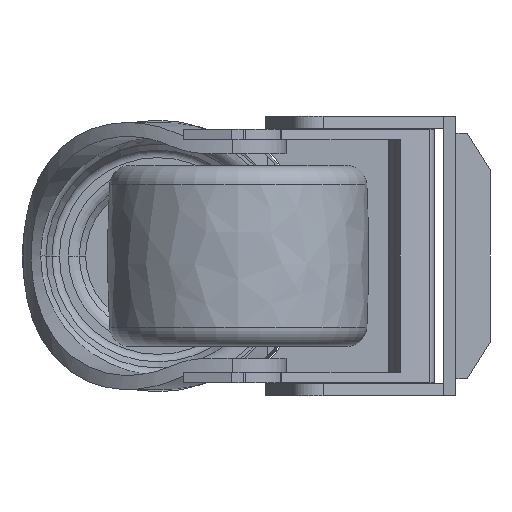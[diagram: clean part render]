
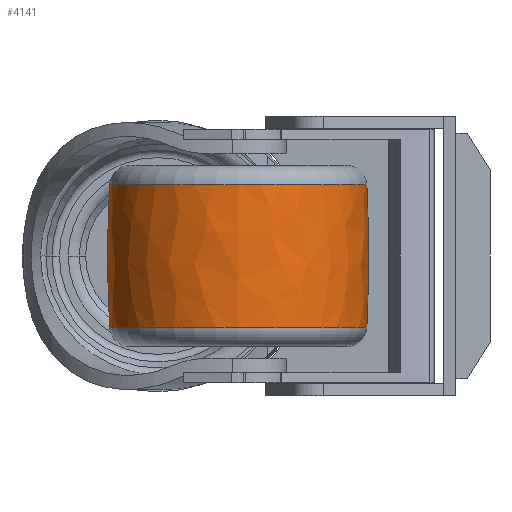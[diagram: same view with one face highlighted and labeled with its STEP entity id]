
A CAD part, front view. The second image highlights one B-rep face of the part: STEP entity #4141.
In plain terms, the highlighted free-form (B-spline) face has degree [3, 3] with [7, 4] control points.
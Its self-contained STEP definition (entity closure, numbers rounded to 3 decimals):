
#3947=CARTESIAN_POINT('',(0.,-305.375,
0.));
#3948=DIRECTION('',(0.,0.,1.));
#3949=DIRECTION('',(0.053,0.999,0.));
#3950=AXIS2_PLACEMENT_3D('',#3947,#3948,#3949);
#3952=CARTESIAN_POINT('',(0.,305.375,
0.));
#3953=DIRECTION('',(0.,0.,-1.));
#3954=DIRECTION('',(0.053,-0.999,0.));
#3955=AXIS2_PLACEMENT_3D('',#3952,#3953,#3954);
#3957=CARTESIAN_POINT('',(17.763,0.,0.));
#3958=DIRECTION('',(-1.,0.,0.));
#3959=DIRECTION('',(0.,1.,0.));
#3960=AXIS2_PLACEMENT_3D('',#3957,#3958,#3959);
#3972=CARTESIAN_POINT('',(-17.763,0.,0.));
#3973=DIRECTION('',(-1.,0.,0.));
#3974=DIRECTION('',(0.,1.,0.));
#3975=AXIS2_PLACEMENT_3D('',#3972,#3973,#3974);
#4040=CARTESIAN_POINT('',(17.763,32.033,0.));
#4041=CARTESIAN_POINT('',(-17.763,32.033,0.));
#4042=VERTEX_POINT('',#4040);
#4043=VERTEX_POINT('',#4041);
#4052=CARTESIAN_POINT('',(17.763,-32.033,0.));
#4053=CARTESIAN_POINT('',(-17.763,-32.033,0.));
#4054=VERTEX_POINT('',#4052);
#4055=VERTEX_POINT('',#4053);
#4104=CARTESIAN_POINT('',(-18.473,-31.932,
2.009));
#4105=CARTESIAN_POINT('',(-6.164,-32.604,
2.051));
#4106=CARTESIAN_POINT('',(6.164,-32.604,2.051));
#4107=CARTESIAN_POINT('',(18.473,-31.932,2.009));
#4108=CARTESIAN_POINT('',(-18.473,-33.168,
-17.642));
#4109=CARTESIAN_POINT('',(-6.164,-33.867,
-18.013));
#4110=CARTESIAN_POINT('',(6.164,-33.867,
-18.013));
#4111=CARTESIAN_POINT('',(18.473,-33.168,
-17.642));
#4112=CARTESIAN_POINT('',(-18.473,-19.689,
-31.995));
#4113=CARTESIAN_POINT('',(-6.164,-20.104,
-32.669));
#4114=CARTESIAN_POINT('',(6.164,-20.104,
-32.669));
#4115=CARTESIAN_POINT('',(18.473,-19.689,
-31.995));
#4116=CARTESIAN_POINT('',(-18.473,0.,-31.995));
#4117=CARTESIAN_POINT('',(-6.164,0.,-32.669));
#4118=CARTESIAN_POINT('',(6.164,0.,-32.669));
#4119=CARTESIAN_POINT('',(18.473,0.,-31.995));
#4120=CARTESIAN_POINT('',(-18.473,19.689,
-31.995));
#4121=CARTESIAN_POINT('',(-6.164,20.104,
-32.669));
#4122=CARTESIAN_POINT('',(6.164,20.104,-32.669));
#4123=CARTESIAN_POINT('',(18.473,19.689,-31.995));
#4124=CARTESIAN_POINT('',(-18.473,33.168,
-17.642));
#4125=CARTESIAN_POINT('',(-6.164,33.867,
-18.013));
#4126=CARTESIAN_POINT('',(6.164,33.867,-18.013));
#4127=CARTESIAN_POINT('',(18.473,33.168,-17.642));
#4128=CARTESIAN_POINT('',(-18.473,31.932,2.009));
#4129=CARTESIAN_POINT('',(-6.164,32.604,2.051));
#4130=CARTESIAN_POINT('',(6.164,32.604,2.051));
#4131=CARTESIAN_POINT('',(18.473,31.932,2.009));
#4132=(BOUNDED_SURFACE()B_SPLINE_SURFACE(3,3,((#4104,#4105,#4106,#4107),(#4108,
#4109,#4110,#4111),(#4112,#4113,#4114,#4115),(#4116,#4117,#4118,#4119),(#4120,
#4121,#4122,#4123),(#4124,#4125,#4126,#4127),(#4128,#4129,#4130,#4131)),
.UNSPECIFIED.,.F.,.F.,.F.)B_SPLINE_SURFACE_WITH_KNOTS((4,3,4),(4,4),(0.,1.,
2.),(0.,1.),.UNSPECIFIED.)GEOMETRIC_REPRESENTATION_ITEM()RATIONAL_B_SPLINE_SURFACE(((1.188,1.187,1.187,1.188),(
0.938,0.937,0.937,0.938),(
0.938,0.937,0.937,0.938),(
1.188,1.187,1.187,1.188),(
0.938,0.937,0.937,0.938),(
0.938,0.937,0.937,0.938),(
1.188,1.187,1.187,1.188)))REPRESENTATION_ITEM('')SURFACE());
#4133=ORIENTED_EDGE('',*,*,#4093,.T.);
#4135=ORIENTED_EDGE('',*,*,#4134,.T.);
#4136=ORIENTED_EDGE('',*,*,#4097,.F.);
#4138=ORIENTED_EDGE('',*,*,#4137,.F.);
#4139=EDGE_LOOP('',(#4133,#4135,#4136,#4138));
#4140=FACE_OUTER_BOUND('',#4139,.F.);
#3951=CIRCLE('',#3950,337.875);
#3956=CIRCLE('',#3955,337.875);
#3961=CIRCLE('',#3960,32.033);
#3976=CIRCLE('',#3975,32.033);
#4093=EDGE_CURVE('',#4042,#4043,#3951,.T.);
#4097=EDGE_CURVE('',#4054,#4055,#3956,.T.);
#4134=EDGE_CURVE('',#4043,#4055,#3976,.T.);
#4137=EDGE_CURVE('',#4042,#4054,#3961,.T.);
#4141=ADVANCED_FACE('',(#4140),#4132,.T.);
